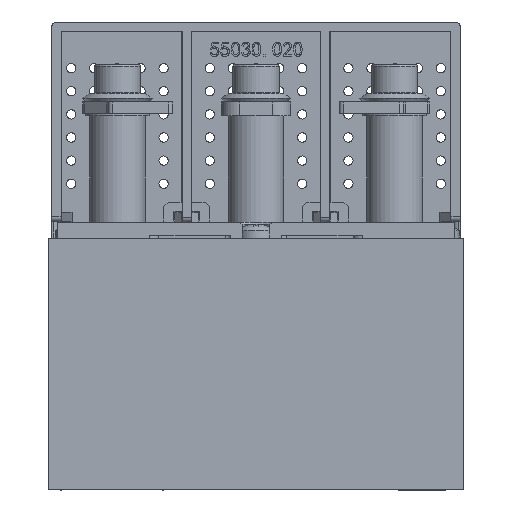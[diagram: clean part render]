
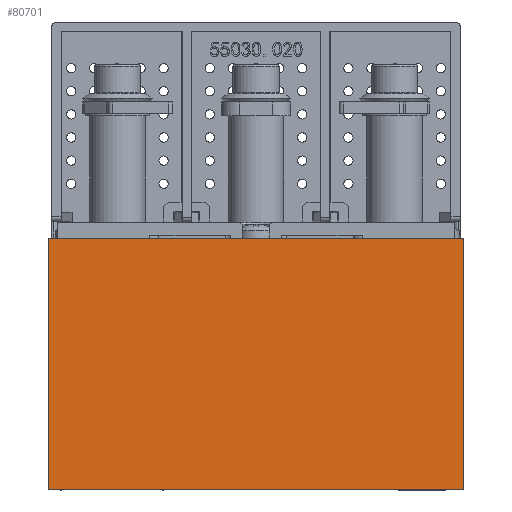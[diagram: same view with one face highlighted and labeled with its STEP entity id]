
A CAD part, left-side view. The second image highlights one B-rep face of the part: STEP entity #80701.
In plain terms, the highlighted planar face has unit normal (-1, 0, 0).
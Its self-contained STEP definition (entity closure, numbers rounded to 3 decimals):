
#2042 = DIRECTION ( 'NONE',  ( 0., 0., -1. ) ) ;
#4388 = EDGE_CURVE ( 'NONE', #70987, #88450, #60145, .T. ) ;
#14637 = CARTESIAN_POINT ( 'NONE',  ( -124.11, 50.463, 165.85 ) ) ;
#24793 = DIRECTION ( 'NONE',  ( 0., -1., 0. ) ) ;
#25223 = ORIENTED_EDGE ( 'NONE', *, *, #95704, .F. ) ;
#28654 = AXIS2_PLACEMENT_3D ( 'NONE', #50965, #88792, #43410 ) ;
#29950 = EDGE_CURVE ( 'NONE', #91528, #65605, #74178, .T. ) ;
#30743 = CARTESIAN_POINT ( 'NONE',  ( -124.11, -39.537, 165.85 ) ) ;
#31670 = ORIENTED_EDGE ( 'NONE', *, *, #63077, .T. ) ;
#35439 = CARTESIAN_POINT ( 'NONE',  ( -124.11, 50.463, 165.85 ) ) ;
#36601 = PLANE ( 'NONE',  #28654 ) ;
#43410 = DIRECTION ( 'NONE',  ( 0., 0., 1. ) ) ;
#43616 = DIRECTION ( 'NONE',  ( 0., 0., -1. ) ) ;
#50965 = CARTESIAN_POINT ( 'NONE',  ( -124.11, 50.463, 165.85 ) ) ;
#55413 = CARTESIAN_POINT ( 'NONE',  ( -124.11, 0., 220.35 ) ) ;
#55958 = LINE ( 'NONE', #68555, #58294 ) ;
#58294 = VECTOR ( 'NONE', #2042, 1000. ) ;
#60145 = LINE ( 'NONE', #55413, #70645 ) ;
#61959 = EDGE_LOOP ( 'NONE', ( #72829, #25223, #73987, #31670 ) ) ;
#62591 = VECTOR ( 'NONE', #87978, 1000. ) ;
#63077 = EDGE_CURVE ( 'NONE', #70987, #91528, #65440, .T. ) ;
#65440 = LINE ( 'NONE', #14637, #73590 ) ;
#65605 = VERTEX_POINT ( 'NONE', #30743 ) ;
#67503 = FACE_OUTER_BOUND ( 'NONE', #61959, .T. ) ;
#68555 = CARTESIAN_POINT ( 'NONE',  ( -124.11, -39.537, 165.85 ) ) ;
#70645 = VECTOR ( 'NONE', #24793, 1000. ) ;
#70987 = VERTEX_POINT ( 'NONE', #84058 ) ;
#72829 = ORIENTED_EDGE ( 'NONE', *, *, #29950, .T. ) ;
#73590 = VECTOR ( 'NONE', #43616, 1000. ) ;
#73987 = ORIENTED_EDGE ( 'NONE', *, *, #4388, .F. ) ;
#74178 = LINE ( 'NONE', #35439, #62591 ) ;
#80701 = ADVANCED_FACE ( 'NONE', ( #67503 ), #36601, .T. ) ;
#83123 = CARTESIAN_POINT ( 'NONE',  ( -124.11, 50.463, 165.85 ) ) ;
#83570 = CARTESIAN_POINT ( 'NONE',  ( -124.11, -39.537, 220.35 ) ) ;
#84058 = CARTESIAN_POINT ( 'NONE',  ( -124.11, 50.463, 220.35 ) ) ;
#87978 = DIRECTION ( 'NONE',  ( 0., -1., 0. ) ) ;
#88450 = VERTEX_POINT ( 'NONE', #83570 ) ;
#88792 = DIRECTION ( 'NONE',  ( -1., 0., 0. ) ) ;
#91528 = VERTEX_POINT ( 'NONE', #83123 ) ;
#95704 = EDGE_CURVE ( 'NONE', #88450, #65605, #55958, .T. ) ;
